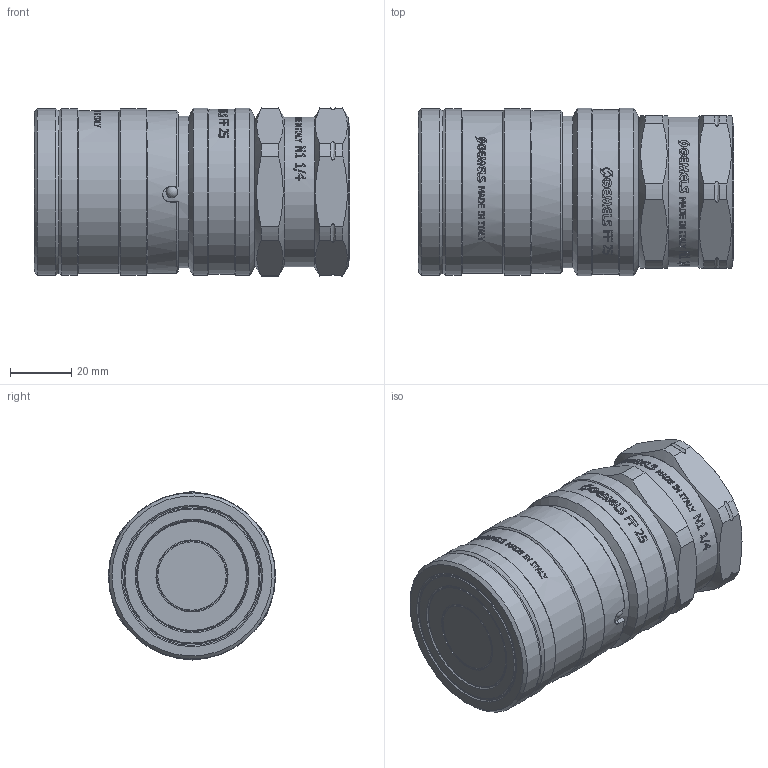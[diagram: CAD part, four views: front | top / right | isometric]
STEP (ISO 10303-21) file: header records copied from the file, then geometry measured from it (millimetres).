
FILE_DESCRIPTION(/* description */ (''),/* implementation_level */ '2;1');
FILE_NAME(/* name */ 'NC06N060000.stp',/* time_stamp */ '2024-08-26T17:37:07+02:00',/* author */ ('thomas.belotti'),/* organization */ (''),/* preprocessor_version */ 'ST-DEVELOPER v20',/* originating_system */ 'Autodesk Inventor 2024',/* authorisation */ '');
FILE_SCHEMA (('AUTOMOTIVE_DESIGN { 1 0 10303 214 3 1 1 }'));
Products named in the file (1): Parte24
Bounding box: 103.26 x 54.7 x 54.99 mm (x, y, z)
Volume: 197630.1 mm3; surface area: 32881.9 mm2
Topology: 1 solids, 5 shells, 1643 faces, 4645 edges, 3086 vertices
Faces by surface type: bspline 1032, plane 446, cylinder 121, cone 29, torus 9, sphere 6
Full cylindrical faces by diameter (mm): 3.9 x4, 23.6 x1, 30 x1, 36 x1, 37.313 x1, 39 x1, 40 x1, 44.5 x1, 45 x1, 45.4 x1, 46 x1, 46.3 x1, 49 x1, 49.5 x1, 49.7 x1, 53.2 x2, 54 x1, 54.4 x3, 54.7 x2
Entity records: 70077 total; most frequent: CARTESIAN_POINT 32579, ORIENTED_EDGE 9286, EDGE_CURVE 4643, DIRECTION 4287, VERTEX_POINT 3085, B_SPLINE_CURVE_WITH_KNOTS 2160, LINE 1847, VECTOR 1847
